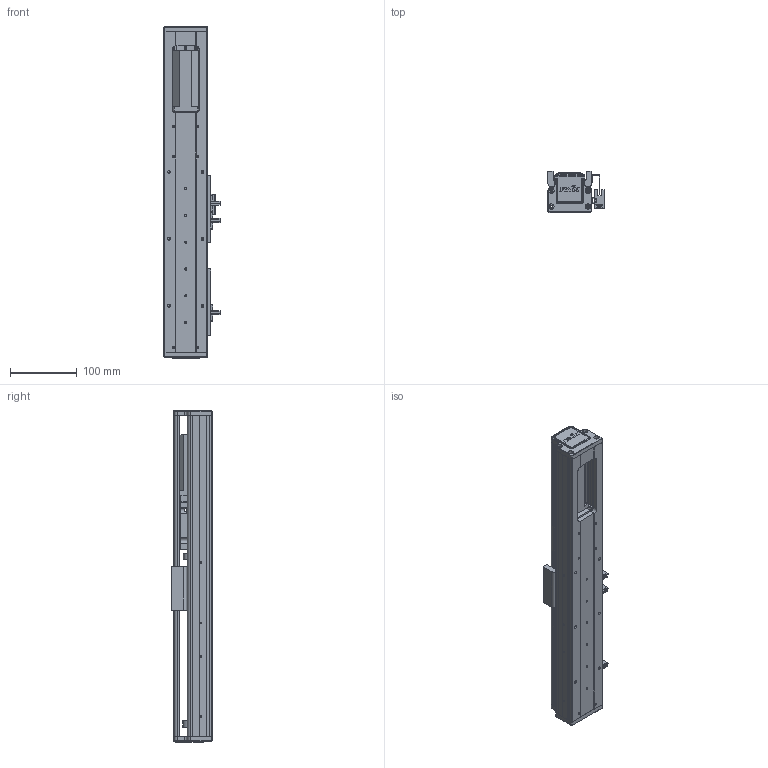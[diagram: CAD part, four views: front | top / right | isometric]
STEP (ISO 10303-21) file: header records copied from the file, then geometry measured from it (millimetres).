
FILE_DESCRIPTION (( 'STEP AP203' ), '1' );
FILE_NAME ('RY60-L1210-300-IK.SLDASM_150.step', '2021-02-22T05:11:56', ( '盈信电脑' ), ( '东莞市道滘镇水果街19号' ), 'SwSTEP 2.0', 'SolidWorks 2012', '' );
FILE_SCHEMA (( 'CONFIG_CONTROL_DESIGN' ));
Length unit declared in the file: millimetre
Products named in the file (12): RY60-L1210-300-IK.SLDASM_150; 滅袉蝶18-10; RY60-内置电机板100W（m3）; 侂狟100W; 覜茼ん672; RY60綴裔啣; RY80俋离覜茼え; 672嫖萇羲壽假蚾釱; RY60-300倰第裔啣-IK_150; RY60臏賑輸; RY60萇儂傷盓傅釱; RY60-300倰第菁釱-IK_150
Assembly tree (18 placements, depth 2):
  RY60-L1210-300-IK.SLDASM_150
    RY60-300倰第菁釱-IK_150
    RY60臏賑輸
    RY60-300倰第裔啣-IK_150
    RY60萇儂傷盓傅釱
    672嫖萇羲壽假蚾釱  x2
    RY60綴裔啣  x2
    覜茼ん672  x3
    RY80俋离覜茼え
    侂狟100W
    滅袉蝶18-10  x4
    RY60-内置电机板100W（m3）
Bounding box: 83.7 x 61 x 496 mm (x, y, z)
Volume: 734554.6 mm3; surface area: 343042.8 mm2
Topology: 18 solids, 18 shells, 1429 faces, 3966 edges, 2569 vertices
Faces by surface type: plane 777, cylinder 548, cone 88, bspline 16
Entity records: 37595 total; most frequent: CARTESIAN_POINT 8668, ORIENTED_EDGE 5848, DIRECTION 5607, EDGE_CURVE 2924, VERTEX_POINT 1915, AXIS2_PLACEMENT_3D 1888, LINE 1831, VECTOR 1831
